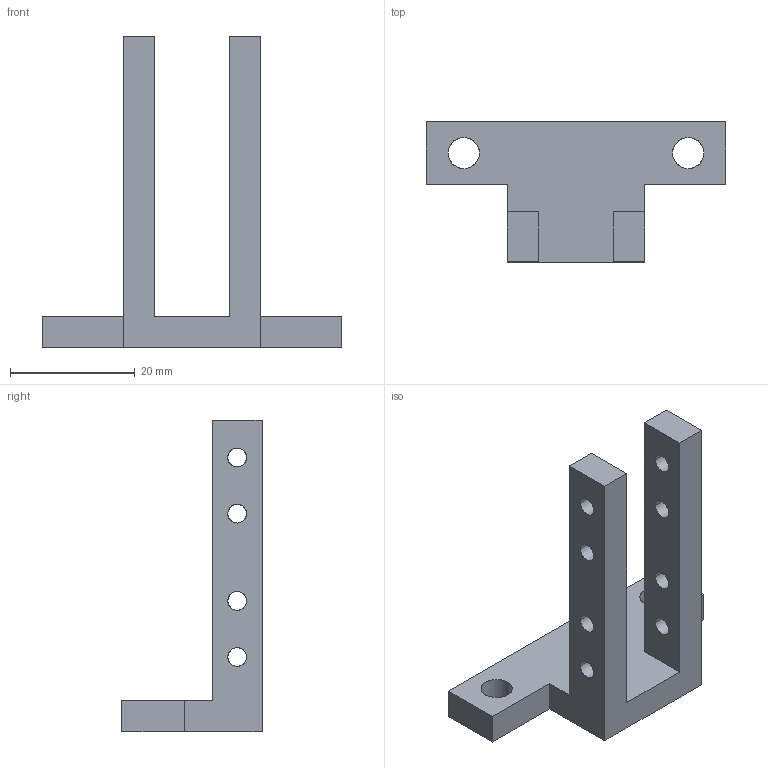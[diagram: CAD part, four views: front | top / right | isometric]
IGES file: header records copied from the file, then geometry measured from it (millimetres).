
Start section: SolidWorks IGES file using analytic representation for surfaces
Bounding box: 48 x 22.5 x 50 mm (x, y, z)
Surface area: 4897.4 mm2 (no closed solid volume)
Topology: 0 solids, 0 shells, 36 faces, 804 edges, 804 vertices
Faces by surface type: revolution 20, bspline 16
